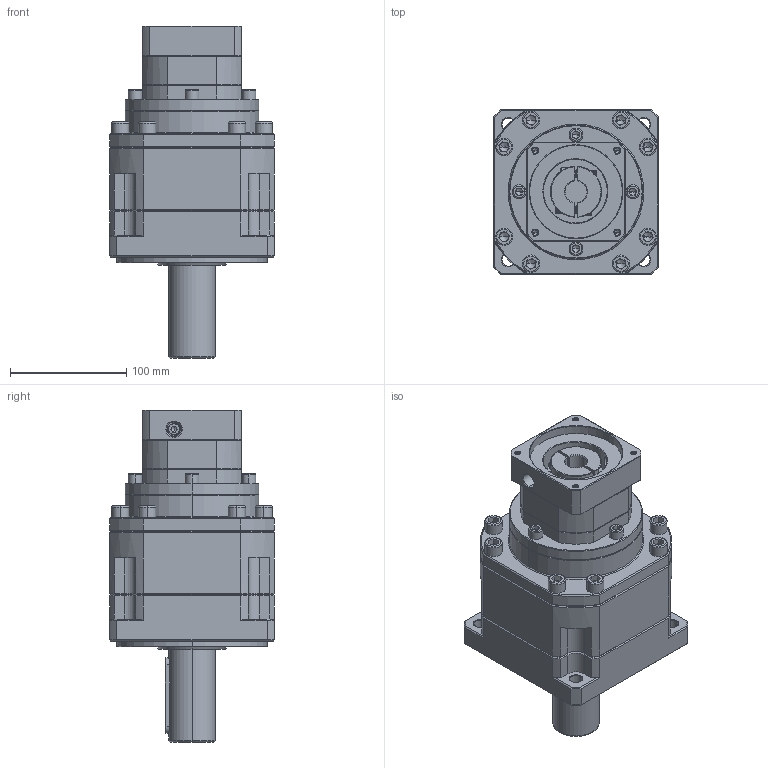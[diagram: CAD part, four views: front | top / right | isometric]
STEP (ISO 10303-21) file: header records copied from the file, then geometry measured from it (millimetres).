
FILE_DESCRIPTION (( 'STEP AP214' ), '1' );
FILE_NAME ('ZB142A-D40-L3-19-80-100-M6.step', '2023-03-18T08:16:15', ( '' ), ( '' ), 'SwSTEP 2.0', 'SolidWorks 2016', '' );
FILE_SCHEMA (( 'AUTOMOTIVE_DESIGN' ));
Length unit declared in the file: millimetre
Products named in the file (1): ZB142A-D40-L3-19-80-100-M6
Bounding box: 142 x 142 x 286.2 mm (x, y, z)
Volume: 2763480.7 mm3; surface area: 200481.3 mm2
Topology: 5 solids, 6 shells, 2264 faces, 5791 edges, 3643 vertices
Faces by surface type: plane 1056, cylinder 473, cone 375, bspline 299, torus 61
Entity records: 118296 total; most frequent: CARTESIAN_POINT 41292, ORIENTED_EDGE 11474, DIRECTION 9709, EDGE_CURVE 5737, VERTEX_POINT 3643, VECTOR 3585, LINE 3585, AXIS2_PLACEMENT_3D 3062
